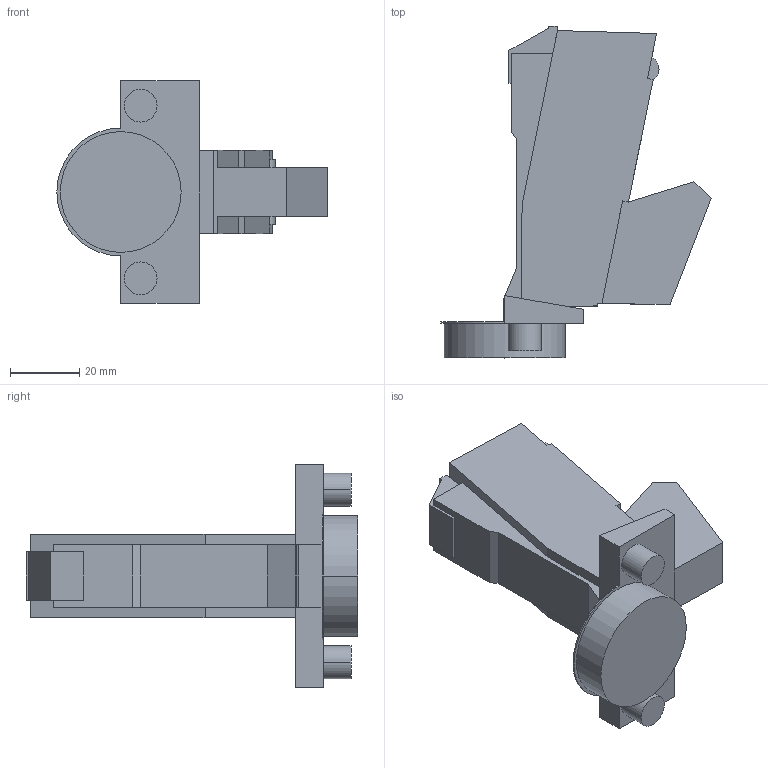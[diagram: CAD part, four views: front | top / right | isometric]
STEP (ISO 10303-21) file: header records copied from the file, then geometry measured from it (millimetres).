
FILE_DESCRIPTION (( 'STEP AP214' ), '1' );
FILE_NAME ('Scharnier T Impresso 160° HS_BB, K00.step', '2010-12-13T10:13:13', ( 'grass' ), ( '' ), 'SwSTEP 2.0', 'SolidWorks 2010', '' );
FILE_SCHEMA (( 'AUTOMOTIVE_DESIGN' ));
Length unit declared in the file: millimetre
Products named in the file (1): Scharnier T Impresso 160° HS_BB, K00
Bounding box: 78.27 x 96.09 x 64.5 mm (x, y, z)
Volume: 92426.4 mm3; surface area: 19019.5 mm2
Topology: 1 solids, 3 shells, 71 faces, 179 edges, 118 vertices
Faces by surface type: plane 58, cylinder 13
Entity records: 2137 total; most frequent: CARTESIAN_POINT 369, ORIENTED_EDGE 358, DIRECTION 349, EDGE_CURVE 179, VECTOR 153, LINE 153, VERTEX_POINT 118, AXIS2_PLACEMENT_3D 98
